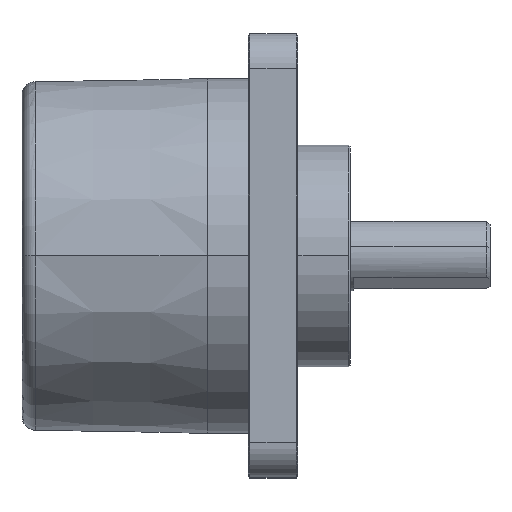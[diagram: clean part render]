
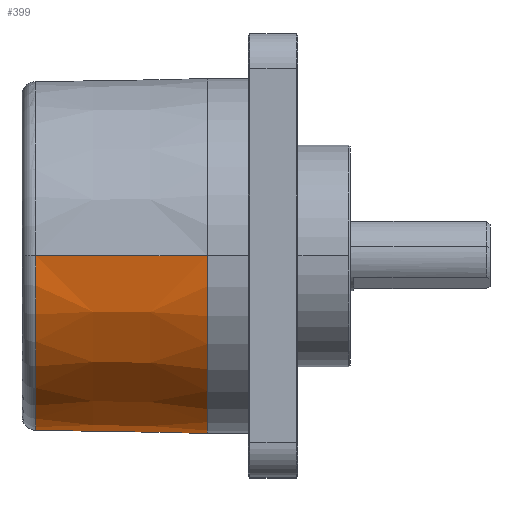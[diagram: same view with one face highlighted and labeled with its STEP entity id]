
A CAD part, top view. The second image highlights one B-rep face of the part: STEP entity #399.
In plain terms, the highlighted conical face has half-angle 1 degrees and reference radius 25.4 mm.
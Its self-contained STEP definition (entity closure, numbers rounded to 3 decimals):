
#1 = VERTEX_POINT ( 'NONE', #2104 ) ;
#2 = VERTEX_POINT ( 'NONE', #2103 ) ;
#26 = VERTEX_POINT ( 'NONE', #2410 ) ;
#57 = EDGE_CURVE ( 'NONE', #2, #58, #2334, .T. ) ;
#58 = VERTEX_POINT ( 'NONE', #2333 ) ;
#67 = EDGE_CURVE ( 'NONE', #68, #58, #2482, .T. ) ;
#68 = VERTEX_POINT ( 'NONE', #2481 ) ;
#86 = VERTEX_POINT ( 'NONE', #2533 ) ;
#88 = EDGE_CURVE ( 'NONE', #86, #26, #2532, .T. ) ;
#91 = EDGE_LOOP ( 'NONE', ( #92, #93, #94, #95, #96, #97 ) ) ;
#92 = ORIENTED_EDGE ( 'NONE', *, *, #88, .F. ) ;
#93 = ORIENTED_EDGE ( 'NONE', *, *, #347, .T. ) ;
#94 = ORIENTED_EDGE ( 'NONE', *, *, #67, .T. ) ;
#95 = ORIENTED_EDGE ( 'NONE', *, *, #57, .F. ) ;
#96 = ORIENTED_EDGE ( 'NONE', *, *, #245, .T. ) ;
#97 = ORIENTED_EDGE ( 'NONE', *, *, #235, .T. ) ;
#235 = EDGE_CURVE ( 'NONE', #1, #26, #2982, .T. ) ;
#245 = EDGE_CURVE ( 'NONE', #2, #1, #3117, .T. ) ;
#347 = EDGE_CURVE ( 'NONE', #86, #68, #3384, .T. ) ;
#399 = ADVANCED_FACE ( 'NONE', ( #3692 ), #3649, .T. ) ;
#2103 = CARTESIAN_POINT ( 'NONE',  ( 3.5, -16.319, -19.418 ) ) ;
#2104 = CARTESIAN_POINT ( 'NONE',  ( 5.5, -12.989, -21.828 ) ) ;
#2313 = CARTESIAN_POINT ( 'NONE',  ( -19., -16.728, -18.542 ) ) ;
#2314 = CARTESIAN_POINT ( 'NONE',  ( -19.012, -16.728, -18.541 ) ) ;
#2315 = CARTESIAN_POINT ( 'NONE',  ( -19.023, -16.728, -18.541 ) ) ;
#2316 = CARTESIAN_POINT ( 'NONE',  ( -19.035, -16.728, -18.541 ) ) ;
#2333 = CARTESIAN_POINT ( 'NONE',  ( -19., -16.728, -18.542 ) ) ;
#2334 = B_SPLINE_CURVE_WITH_KNOTS ( 'NONE', 3,
 ( #2374, #2373, #2372, #2371 ),
 .UNSPECIFIED., .F., .F.,
 ( 4, 4 ),
 ( 0.002, 0.025 ),
 .UNSPECIFIED. ) ;
#2371 = CARTESIAN_POINT ( 'NONE',  ( -19., -16.728, -18.542 ) ) ;
#2372 = CARTESIAN_POINT ( 'NONE',  ( -11.501, -16.586, -18.846 ) ) ;
#2373 = CARTESIAN_POINT ( 'NONE',  ( -4.001, -16.45, -19.137 ) ) ;
#2374 = CARTESIAN_POINT ( 'NONE',  ( 3.5, -16.319, -19.418 ) ) ;
#2410 = CARTESIAN_POINT ( 'NONE',  ( 5.5, 0., 25.4 ) ) ;
#2481 = CARTESIAN_POINT ( 'NONE',  ( -19.035, -16.728, -18.541 ) ) ;
#2482 = B_SPLINE_CURVE_WITH_KNOTS ( 'NONE', 3,
 ( #2316, #2315, #2314, #2313 ),
 .UNSPECIFIED., .F., .F.,
 ( 4, 4 ),
 ( 0., 0. ),
 .UNSPECIFIED. ) ;
#2529 = DIRECTION ( 'NONE',  ( 1., 0., 0.017 ) ) ;
#2530 = VECTOR ( 'NONE', #2529, 1000. ) ;
#2531 = CARTESIAN_POINT ( 'NONE',  ( 5.5, 0., 25.4 ) ) ;
#2532 = LINE ( 'NONE', #2531, #2530 ) ;
#2533 = CARTESIAN_POINT ( 'NONE',  ( -19.035, 0., 24.972 ) ) ;
#2978 = DIRECTION ( 'NONE',  ( 0., 0., -1. ) ) ;
#2979 = DIRECTION ( 'NONE',  ( -1., 0., 0. ) ) ;
#2980 = CARTESIAN_POINT ( 'NONE',  ( 5.5, 0., 0. ) ) ;
#2981 = AXIS2_PLACEMENT_3D ( 'NONE', #2980, #2979, #2978 ) ;
#2982 = CIRCLE ( 'NONE', #2981, 25.4 ) ;
#3099 = CARTESIAN_POINT ( 'NONE',  ( 5.5, -12.989, -21.828 ) ) ;
#3100 = CARTESIAN_POINT ( 'NONE',  ( 5.5, -13.341, -21.618 ) ) ;
#3101 = CARTESIAN_POINT ( 'NONE',  ( 5.461, -13.682, -21.403 ) ) ;
#3102 = CARTESIAN_POINT ( 'NONE',  ( 5.317, -14.347, -20.96 ) ) ;
#3103 = CARTESIAN_POINT ( 'NONE',  ( 5.21, -14.672, -20.731 ) ) ;
#3104 = CARTESIAN_POINT ( 'NONE',  ( 4.995, -15.13, -20.392 ) ) ;
#3105 = CARTESIAN_POINT ( 'NONE',  ( 4.914, -15.278, -20.28 ) ) ;
#3106 = CARTESIAN_POINT ( 'NONE',  ( 4.727, -15.562, -20.058 ) ) ;
#3107 = CARTESIAN_POINT ( 'NONE',  ( 4.62, -15.701, -19.947 ) ) ;
#3108 = CARTESIAN_POINT ( 'NONE',  ( 4.436, -15.89, -19.792 ) ) ;
#3109 = CARTESIAN_POINT ( 'NONE',  ( 4.37, -15.95, -19.742 ) ) ;
#3110 = CARTESIAN_POINT ( 'NONE',  ( 4.228, -16.062, -19.648 ) ) ;
#3111 = CARTESIAN_POINT ( 'NONE',  ( 4.151, -16.115, -19.603 ) ) ;
#3112 = CARTESIAN_POINT ( 'NONE',  ( 3.902, -16.252, -19.484 ) ) ;
#3113 = CARTESIAN_POINT ( 'NONE',  ( 3.708, -16.315, -19.426 ) ) ;
#3114 = CARTESIAN_POINT ( 'NONE',  ( 3.5, -16.319, -19.418 ) ) ;
#3117 = B_SPLINE_CURVE_WITH_KNOTS ( 'NONE', 3,
 ( #3114, #3113, #3112, #3111, #3110, #3109, #3108, #3107, #3106, #3105, #3104, #3103, #3102, #3101, #3100, #3099 ),
 .UNSPECIFIED., .F., .F.,
 ( 4, 2, 2, 2, 2, 2, 2, 4 ),
 ( 0., 0.001, 0.001, 0.001, 0.002, 0.002, 0.004, 0.005 ),
 .UNSPECIFIED. ) ;
#3353 = DIRECTION ( 'NONE',  ( 0., 0., -1. ) ) ;
#3354 = DIRECTION ( 'NONE',  ( 1., 0., 0. ) ) ;
#3355 = CARTESIAN_POINT ( 'NONE',  ( -19.035, 0., 0. ) ) ;
#3356 = AXIS2_PLACEMENT_3D ( 'NONE', #3355, #3354, #3353 ) ;
#3384 = CIRCLE ( 'NONE', #3356, 24.972 ) ;
#3646 = DIRECTION ( 'NONE',  ( 0., 0., 1. ) ) ;
#3647 = DIRECTION ( 'NONE',  ( 1., 0., 0. ) ) ;
#3648 = AXIS2_PLACEMENT_3D ( 'NONE', #3652, #3647, #3646 ) ;
#3649 = CONICAL_SURFACE ( 'NONE', #3648, 25.4, 0.017 ) ;
#3652 = CARTESIAN_POINT ( 'NONE',  ( 5.5, 0., 0. ) ) ;
#3692 = FACE_OUTER_BOUND ( 'NONE', #91, .T. ) ;
